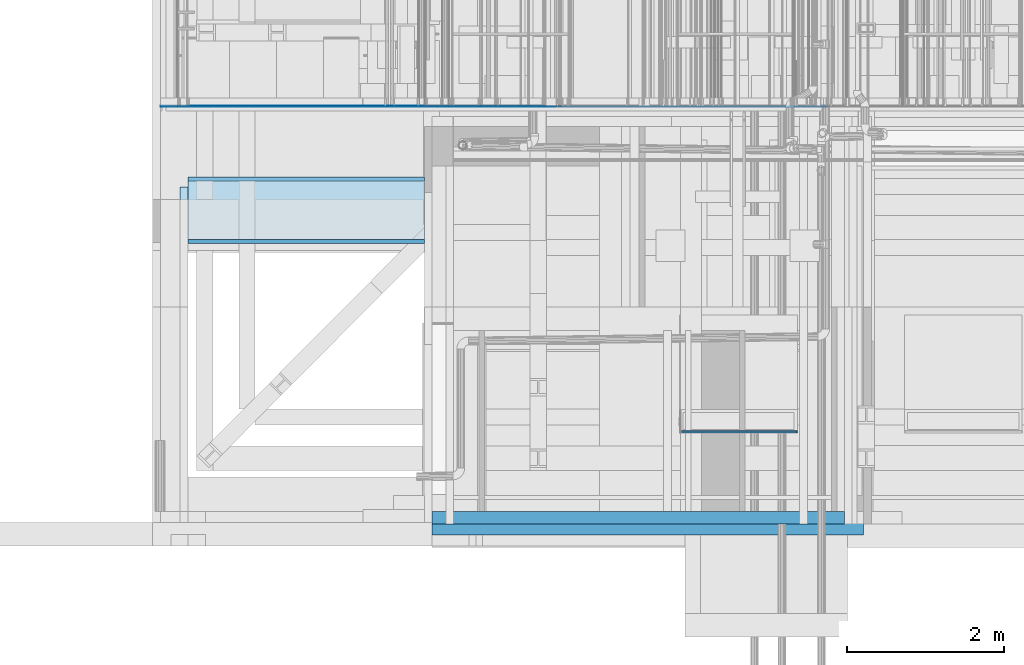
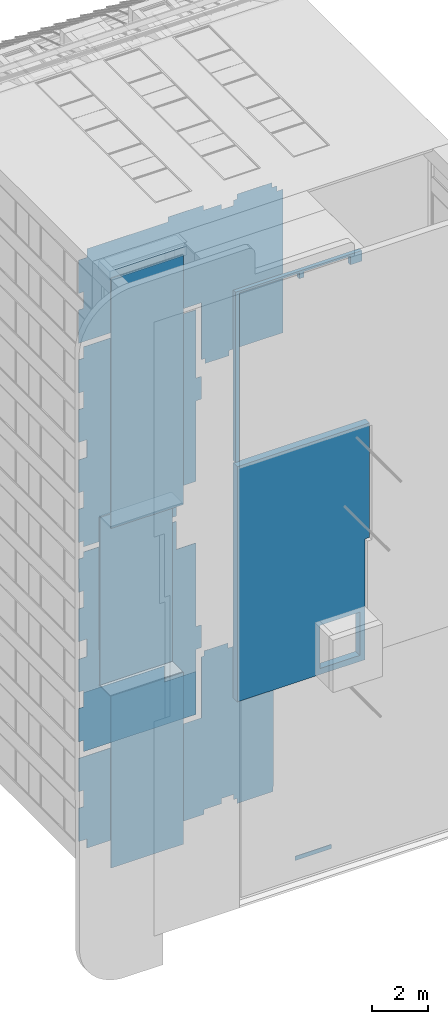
# One storey, part 243 of 583: 18 slabs.
"""IFC2X3 building model written with IfcOpenShell, lengths in metres."""

from ifc_helpers import new_model, entity, si_unit, converted_unit, derived_unit, money_unit, direction, frame, origin_with_axes, place, context, subcontext, project, spatial, faceted_brep, material, type_object, element, save


model = new_model("IFC2X3")

# Units and contexts
model_context = context("Model", 3, precision=1e-05, world=origin_with_axes(), true_north=direction((0.0, 1.0)))
body_context = subcontext(model_context, "Body", "Model", "MODEL_VIEW", scale=1.0)
ifc_project = project(units=[si_unit("LENGTHUNIT", "METRE"), si_unit("AREAUNIT", "SQUARE_METRE"), si_unit("VOLUMEUNIT", "CUBIC_METRE"), si_unit("ABSORBEDDOSEUNIT", "GRAY"), si_unit("AMOUNTOFSUBSTANCEUNIT", "MOLE"), si_unit("DOSEEQUIVALENTUNIT", "SIEVERT"), si_unit("ELECTRICCAPACITANCEUNIT", "FARAD"), si_unit("ELECTRICCHARGEUNIT", "COULOMB"), si_unit("ELECTRICCONDUCTANCEUNIT", "SIEMENS"), si_unit("ELECTRICCURRENTUNIT", "AMPERE"), si_unit("ELECTRICRESISTANCEUNIT", "OHM"), si_unit("ELECTRICVOLTAGEUNIT", "VOLT"), si_unit("ENERGYUNIT", "JOULE"), si_unit("FORCEUNIT", "NEWTON"), si_unit("FREQUENCYUNIT", "HERTZ"), si_unit("ILLUMINANCEUNIT", "LUX"), si_unit("INDUCTANCEUNIT", "HENRY"), si_unit("LUMINOUSFLUXUNIT", "LUMEN"), si_unit("LUMINOUSINTENSITYUNIT", "CANDELA"), si_unit("MAGNETICFLUXDENSITYUNIT", "TESLA"), si_unit("MAGNETICFLUXUNIT", "WEBER"), si_unit("MASSUNIT", "GRAM"), converted_unit("PLANEANGLEUNIT", "degree", entity("IfcReal", 0.0174532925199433), si_unit("PLANEANGLEUNIT", "RADIAN"), dimensions=[0, 0, 0, 0, 0, 0, 0]), si_unit("POWERUNIT", "WATT"), si_unit("PRESSUREUNIT", "PASCAL"), si_unit("RADIOACTIVITYUNIT", "BECQUEREL"), si_unit("SOLIDANGLEUNIT", "STERADIAN"), si_unit("THERMODYNAMICTEMPERATUREUNIT", "KELVIN"), si_unit("TIMEUNIT", "SECOND"), derived_unit("ACCELERATIONUNIT", [(si_unit("LENGTHUNIT", "METRE"), 1), (si_unit("TIMEUNIT", "SECOND"), -2)]), derived_unit("ANGULARVELOCITYUNIT", [(converted_unit("PLANEANGLEUNIT", "degree", entity("IfcReal", 0.0174532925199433), si_unit("PLANEANGLEUNIT", "RADIAN"), dimensions=[0, 0, 0, 0, 0, 0, 0]), 1), (si_unit("TIMEUNIT", "SECOND"), -1)]), derived_unit("CURVATUREUNIT", [(converted_unit("PLANEANGLEUNIT", "degree", entity("IfcReal", 0.0174532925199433), si_unit("PLANEANGLEUNIT", "RADIAN"), dimensions=[0, 0, 0, 0, 0, 0, 0]), 1), (si_unit("LENGTHUNIT", "METRE"), -1)]), derived_unit("DYNAMICVISCOSITYUNIT", [(si_unit("PRESSUREUNIT", "PASCAL"), 1), (si_unit("TIMEUNIT", "SECOND"), 1)]), derived_unit("HEATFLUXDENSITYUNIT", [(si_unit("POWERUNIT", "WATT"), 1), (si_unit("LENGTHUNIT", "METRE"), -2)]), derived_unit("HEATINGVALUEUNIT", [(si_unit("ENERGYUNIT", "JOULE"), 1), (si_unit("MASSUNIT", "GRAM"), -1)]), derived_unit("INTEGERCOUNTRATEUNIT", [(si_unit("TIMEUNIT", "SECOND"), -1)]), derived_unit("IONCONCENTRATIONUNIT", [(si_unit("MASSUNIT", "GRAM"), 1), (si_unit("VOLUMEUNIT", "CUBIC_METRE"), -1)]), derived_unit("ISOTHERMALMOISTURECAPACITYUNIT", [(si_unit("VOLUMEUNIT", "CUBIC_METRE"), 1), (si_unit("MASSUNIT", "GRAM"), -1)]), derived_unit("KINEMATICVISCOSITYUNIT", [(si_unit("AREAUNIT", "SQUARE_METRE"), 1), (si_unit("TIMEUNIT", "SECOND"), -1)]), derived_unit("LINEARFORCEUNIT", [(si_unit("FORCEUNIT", "NEWTON"), 1), (si_unit("LENGTHUNIT", "METRE"), -1)]), derived_unit("LINEARMOMENTUNIT", [(si_unit("FORCEUNIT", "NEWTON"), 1), (si_unit("LENGTHUNIT", "METRE"), -1)]), derived_unit("LINEARSTIFFNESSUNIT", [(si_unit("FORCEUNIT", "NEWTON"), 1), (si_unit("LENGTHUNIT", "METRE"), -1)]), derived_unit("LINEARVELOCITYUNIT", [(si_unit("LENGTHUNIT", "METRE"), 1), (si_unit("TIMEUNIT", "SECOND"), -1)]), derived_unit("LUMINOUSINTENSITYDISTRIBUTIONUNIT", [(si_unit("LUMINOUSINTENSITYUNIT", "CANDELA"), 1), (si_unit("LUMINOUSFLUXUNIT", "LUMEN"), -1)]), derived_unit("MASSDENSITYUNIT", [(si_unit("MASSUNIT", "GRAM"), 1), (si_unit("VOLUMEUNIT", "CUBIC_METRE"), -1)]), derived_unit("MASSFLOWRATEUNIT", [(si_unit("MASSUNIT", "GRAM"), 1), (si_unit("TIMEUNIT", "SECOND"), -1)]), derived_unit("MASSPERLENGTHUNIT", [(si_unit("MASSUNIT", "GRAM"), 1), (si_unit("LENGTHUNIT", "METRE"), -1)]), derived_unit("MODULUSOFELASTICITYUNIT", [(si_unit("FORCEUNIT", "NEWTON"), 1), (si_unit("AREAUNIT", "SQUARE_METRE"), -1)]), derived_unit("MODULUSOFLINEARSUBGRADEREACTIONUNIT", [(si_unit("FORCEUNIT", "NEWTON"), 1), (si_unit("LENGTHUNIT", "METRE"), -2)]), derived_unit("MODULUSOFROTATIONALSUBGRADEREACTIONUNIT", [(si_unit("FORCEUNIT", "NEWTON"), 1), (si_unit("LENGTHUNIT", "METRE"), 1)]), derived_unit("MODULUSOFSUBGRADEREACTIONUNIT", [(si_unit("FORCEUNIT", "NEWTON"), 1), (si_unit("VOLUMEUNIT", "CUBIC_METRE"), -1)]), derived_unit("MOISTUREDIFFUSIVITYUNIT", [(si_unit("VOLUMEUNIT", "CUBIC_METRE"), 1), (si_unit("TIMEUNIT", "SECOND"), -1)]), derived_unit("MOLECULARWEIGHTUNIT", [(si_unit("MASSUNIT", "GRAM"), 1), (si_unit("AMOUNTOFSUBSTANCEUNIT", "MOLE"), -1)]), derived_unit("PLANARFORCEUNIT", [(si_unit("FORCEUNIT", "NEWTON"), 1), (si_unit("LENGTHUNIT", "METRE"), -2)]), derived_unit("ROTATIONALFREQUENCYUNIT", [(si_unit("TIMEUNIT", "SECOND"), -1)]), derived_unit("ROTATIONALMASSUNIT", [(si_unit("MASSUNIT", "GRAM"), 1), (si_unit("LENGTHUNIT", "METRE"), 2)]), derived_unit("ROTATIONALSTIFFNESSUNIT", [(si_unit("FORCEUNIT", "NEWTON"), 1), (si_unit("LENGTHUNIT", "METRE"), 1), (converted_unit("PLANEANGLEUNIT", "degree", entity("IfcReal", 0.0174532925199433), si_unit("PLANEANGLEUNIT", "RADIAN"), dimensions=[0, 0, 0, 0, 0, 0, 0]), -1)]), derived_unit("SECTIONAREAINTEGRALUNIT", [(si_unit("LENGTHUNIT", "METRE"), 5)]), derived_unit("SECTIONMODULUSUNIT", [(si_unit("LENGTHUNIT", "METRE"), 3)]), derived_unit("SHEARMODULUSUNIT", [(si_unit("FORCEUNIT", "NEWTON"), 1), (si_unit("AREAUNIT", "SQUARE_METRE"), -1)]), derived_unit("SOUNDPOWERUNIT", [(si_unit("ENERGYUNIT", "JOULE"), 1), (si_unit("TIMEUNIT", "SECOND"), -1)]), derived_unit("SPECIFICHEATCAPACITYUNIT", [(si_unit("FORCEUNIT", "NEWTON"), 1), (si_unit("MASSUNIT", "GRAM"), -1), (si_unit("THERMODYNAMICTEMPERATUREUNIT", "KELVIN"), -1)]), derived_unit("TEMPERATUREGRADIENTUNIT", [(si_unit("THERMODYNAMICTEMPERATUREUNIT", "KELVIN"), 1), (si_unit("LENGTHUNIT", "METRE"), -1)]), derived_unit("THERMALADMITTANCEUNIT", [(si_unit("POWERUNIT", "WATT"), 1), (si_unit("AREAUNIT", "SQUARE_METRE"), -1), (si_unit("THERMODYNAMICTEMPERATUREUNIT", "KELVIN"), -1)]), derived_unit("THERMALCONDUCTANCEUNIT", [(si_unit("POWERUNIT", "WATT"), 1), (si_unit("LENGTHUNIT", "METRE"), -1), (si_unit("THERMODYNAMICTEMPERATUREUNIT", "KELVIN"), -1)]), derived_unit("THERMALEXPANSIONCOEFFICIENTUNIT", [(si_unit("THERMODYNAMICTEMPERATUREUNIT", "KELVIN"), -1)]), derived_unit("THERMALRESISTANCEUNIT", [(si_unit("AREAUNIT", "SQUARE_METRE"), 1), (si_unit("POWERUNIT", "WATT"), -1)]), derived_unit("THERMALTRANSMITTANCEUNIT", [(si_unit("POWERUNIT", "WATT"), 1), (si_unit("AREAUNIT", "SQUARE_METRE"), -1), (si_unit("THERMODYNAMICTEMPERATUREUNIT", "KELVIN"), -1)]), derived_unit("TORQUEUNIT", [(si_unit("FORCEUNIT", "NEWTON"), 1), (si_unit("LENGTHUNIT", "METRE"), 1)]), derived_unit("VAPORPERMEABILITYUNIT", [(si_unit("MASSUNIT", "GRAM"), 1), (si_unit("TIMEUNIT", "SECOND"), -1)]), derived_unit("VOLUMETRICFLOWRATEUNIT", [(si_unit("VOLUMEUNIT", "CUBIC_METRE"), 1), (si_unit("TIMEUNIT", "SECOND"), -1)]), derived_unit("WARPINGCONSTANTUNIT", [(si_unit("LENGTHUNIT", "METRE"), 6)]), derived_unit("WARPINGMOMENTUNIT", [(si_unit("FORCEUNIT", "NEWTON"), 1), (si_unit("LENGTHUNIT", "METRE"), 2)]), money_unit("GBP")], contexts=[model_context])

# Site, building, storey
site_placement = place(None, origin_with_axes())
site = spatial("IfcSite", under=ifc_project, at=site_placement, Name="Site", CompositionType="ELEMENT")
building_placement = place(site_placement, origin_with_axes())
building = spatial("IfcBuilding", under=site, at=building_placement, Name="Building01", CompositionType="ELEMENT")
storey_placement = place(building_placement, frame((0.0, 0.0, 20.78), z_axis=(0.0, 0.0, 1.0), x_axis=(1.0, 0.0, 0.0)))
storey = spatial("IfcBuildingStorey", under=building, at=storey_placement, Name="RL", CompositionType="ELEMENT", Elevation=20.78)

# Slabs
ifc_material_1 = material(Name="A_BSUK_Slabs")
slab_type = type_object("IfcSlabType", Name="A-FloorsSlabs A_BSUK_Slabs", PredefinedType="FLOOR")
placement = place(storey_placement, frame((0.0, 0.0, -20.78), z_axis=(0.0, 0.0, 1.0), x_axis=(1.0, 0.0, 0.0)))
element("IfcSlab", 1, at=placement, inside=storey, type_object=slab_type, material=ifc_material_1, Name="A-FloorsSlabs A_BSUK_Slabs", ObjectType="CompoundSlabLeaf", context=body_context, shape_type="Brep", body=[
    faceted_brep([(3.558962, -0.16, 19.402776), (3.558962, 0.0, 19.402776), (3.733962, 0.0, 19.402776), (3.733962, -0.16, 19.402776), (3.558962, -0.16, 26.881285), (3.558962, 0.0, 26.881285), (8.809531, -0.16, 26.881285), (8.809531, 0.0, 26.881285), (8.809531, -0.16, 26.414179), (8.809531, 0.0, 26.414179), (8.337758, -0.16, 26.414179), (8.337758, 0.0, 26.414179), (8.337758, -0.16, 26.795161), (8.337758, 0.0, 26.795161), (6.411749, -0.16, 26.795161), (6.411749, 0.0, 26.795161), (6.411749, -0.16, 26.548156), (6.411749, 0.0, 26.548156), (6.212116, -0.16, 26.548156), (6.212116, 0.0, 26.548156), (6.212107, -0.16, 26.795153), (6.212107, 0.0, 26.795153), (3.733574, -0.16, 26.795285), (3.733574, 0.0, 26.795285)], [[[0, 1, 2, 3]], [[4, 5, 1, 0]], [[6, 7, 5, 4]], [[8, 9, 7, 6]], [[10, 11, 9, 8]], [[12, 13, 11, 10]], [[14, 15, 13, 12]], [[16, 17, 15, 14]], [[18, 19, 17, 16]], [[20, 21, 19, 18]], [[22, 23, 21, 20]], [[3, 2, 23, 22]], [[1, 5, 7, 9, 11, 13, 15, 17, 19, 21, 23, 2]], [[3, 22, 20, 18, 16, 14, 12, 10, 8, 6, 4, 0]]]),
])
element("IfcSlab", 2, at=placement, inside=storey, type_object=slab_type, material=ifc_material_1, Name="A-FloorsSlabs A_BSUK_Slabs", ObjectType="CompoundSlabLeaf", context=body_context, shape_type="Brep", body=[
    faceted_brep([(8.87141, 0.0, 8.965099), (3.559165, 0.0, 8.965099), (3.559165, 0.0, 19.302967), (9.053145, 0.0, 19.302967), (9.053145, 0.0, 14.27235), (8.87141, 0.0, 14.27235), (8.64741, 0.0, 9.229999), (8.64741, 0.0, 11.129999), (6.989761, 0.0, 11.129999), (6.989761, 0.0, 9.229999), (8.87141, -0.3, 14.27235), (9.053145, -0.3, 14.27235), (9.053145, -0.3, 19.302967), (3.559165, -0.3, 19.302967), (3.559165, -0.3, 8.965099), (8.87141, -0.3, 8.965099), (8.64741, -0.3, 9.229999), (6.989761, -0.3, 9.229999), (6.989761, -0.3, 11.129999), (8.64741, -0.3, 11.129999)], [[[0, 1, 2, 3, 4, 5], [6, 7, 8, 9]], [[10, 11, 12, 13, 14, 15], [16, 17, 18, 19]], [[15, 0, 5, 10]], [[14, 1, 0, 15]], [[13, 2, 1, 14]], [[12, 3, 2, 13]], [[11, 4, 3, 12]], [[10, 5, 4, 11]], [[16, 19, 7, 6]], [[17, 16, 6, 9]], [[18, 17, 9, 8]], [[19, 18, 8, 7]]]),
])
ifc_material_2 = material(Name="A_BSUK_Timber_Miscellaneous")
element("IfcSlab", 3, at=placement, inside=storey, type_object=slab_type, material=ifc_material_2, Name="A-FloorsSlabs A_BSUK_Slabs", ObjectType="CompoundSlabLeaf", context=body_context, shape_type="Brep", body=[
    faceted_brep([(8.212761, 0.998, 0.100088), (8.212761, 1.023, 0.100088), (8.212761, 1.023, 0.287079), (8.212761, 0.998, 0.287079), (6.712761, 0.998, 0.100088), (6.712761, 1.023, 0.100088), (6.712761, 0.998, 0.287079), (6.712761, 1.023, 0.287079)], [[[0, 1, 2, 3]], [[4, 5, 1, 0]], [[6, 7, 5, 4]], [[3, 2, 7, 6]], [[1, 5, 7, 2]], [[3, 6, 4, 0]]]),
])
ifc_material_3 = material(Name="A_BSUK_ExpandedPolystyreneBoards")
element("IfcSlab", 4, at=placement, inside=storey, type_object=slab_type, material=ifc_material_3, Name="A-FloorsSlabs A_BSUK_Slabs", ObjectType="CompoundSlabLeaf", context=body_context, shape_type="Brep", body=[
    faceted_brep([(0.450128, 4.21, 8.054094), (0.450128, 4.26, 8.054094), (3.459213, 4.26, 8.054094), (3.459213, 4.21, 8.054094), (0.449338, 4.21, 15.424099), (0.449338, 4.26, 15.424099), (3.459213, 4.21, 15.424099), (3.459213, 4.26, 15.424099)], [[[0, 1, 2, 3]], [[4, 5, 1, 0]], [[6, 7, 5, 4]], [[3, 2, 7, 6]], [[1, 5, 7, 2]], [[3, 6, 4, 0]]]),
])
element("IfcSlab", 5, at=placement, inside=storey, type_object=slab_type, material=ifc_material_3, Name="A-FloorsSlabs A_BSUK_Slabs", ObjectType="CompoundSlabLeaf", context=body_context, shape_type="Brep", body=[
    faceted_brep([(3.459213, 3.41, 0.5), (3.459213, 3.46, 0.5), (3.459213, 3.46, 8.054094), (3.459213, 3.41, 8.054094), (0.449667, 3.41, 0.5), (0.449667, 3.46, 0.5), (0.449667, 3.41, 8.054094), (0.449667, 3.46, 8.054094)], [[[0, 1, 2, 3]], [[4, 5, 1, 0]], [[6, 7, 5, 4]], [[3, 2, 7, 6]], [[1, 5, 7, 2]], [[3, 6, 4, 0]]]),
])
element("IfcSlab", 6, at=placement, inside=storey, type_object=slab_type, material=ifc_material_3, Name="A-FloorsSlabs A_BSUK_Slabs", ObjectType="CompoundSlabLeaf", context=body_context, shape_type="Brep", body=[
    faceted_brep([(3.459213, 3.41, 15.424099), (3.459213, 3.46, 15.424099), (3.459332, 3.46, 26.41), (3.459332, 3.41, 26.41), (0.449338, 3.41, 15.424099), (0.449338, 3.46, 15.424099), (0.44956, 3.41, 26.41), (0.44956, 3.46, 26.41)], [[[0, 1, 2, 3]], [[4, 5, 1, 0]], [[6, 7, 5, 4]], [[3, 2, 7, 6]], [[1, 5, 7, 2]], [[3, 6, 4, 0]]]),
])
element("IfcSlab", 7, at=placement, inside=storey, type_object=slab_type, material=ifc_material_3, Name="A-FloorsSlabs A_BSUK_Slabs", ObjectType="CompoundSlabLeaf", context=body_context, shape_type="Brep", body=[
    faceted_brep([(3.459213, 3.46, 8.004094), (3.459213, 4.26, 8.004094), (3.459213, 4.26, 8.054094), (3.459213, 3.46, 8.054094), (0.449338, 3.46, 8.004094), (0.449338, 4.26, 8.004094), (0.449338, 3.46, 8.054094), (0.449338, 4.26, 8.054094)], [[[0, 1, 2, 3]], [[4, 5, 1, 0]], [[6, 7, 5, 4]], [[3, 2, 7, 6]], [[1, 5, 7, 2]], [[3, 6, 4, 0]]]),
])
element("IfcSlab", 8, at=placement, inside=storey, type_object=slab_type, material=ifc_material_1, Name="A-FloorsSlabs A_BSUK_Slabs", ObjectType="CompoundSlabLeaf", context=body_context, shape_type="Brep", body=[
    faceted_brep([(0.348679, 3.325, 26.81), (0.348679, 4.13, 26.81), (0.348679, 4.13, 26.41), (0.348679, 3.325, 26.41), (3.558962, 3.325, 26.81), (3.558962, 4.13, 26.81), (3.558962, 3.325, 26.41), (3.558962, 4.13, 26.41)], [[[0, 1, 2, 3]], [[4, 5, 1, 0]], [[6, 7, 5, 4]], [[3, 2, 7, 6]], [[1, 5, 7, 2]], [[3, 6, 4, 0]]]),
])
element("IfcSlab", 9, at=placement, inside=storey, type_object=slab_type, material=ifc_material_3, Name="A-FloorsSlabs A_BSUK_Slabs", ObjectType="CompoundSlabLeaf", context=body_context, shape_type="Brep", body=[
    faceted_brep([(3.459213, 3.46, 15.424099), (3.459213, 4.26, 15.424099), (3.459213, 4.26, 15.474099), (3.459213, 3.46, 15.474099), (0.449338, 3.46, 15.424099), (0.449338, 4.26, 15.424099), (0.449338, 3.46, 15.474099), (0.449338, 4.26, 15.474099)], [[[0, 1, 2, 3]], [[4, 5, 1, 0]], [[6, 7, 5, 4]], [[3, 2, 7, 6]], [[1, 5, 7, 2]], [[3, 6, 4, 0]]]),
])
element("IfcSlab", 10, at=placement, inside=storey, type_object=slab_type, material=ifc_material_3, Name="A-FloorsSlabs A_BSUK_Slabs", ObjectType="CompoundSlabLeaf", context=body_context, shape_type="Brep", body=[
    faceted_brep([(6.357147, 5.15, 20.122661), (6.357147, 5.153, 20.122661), (8.595, 5.153, 20.122661), (8.595, 5.15, 20.122661), (6.357147, 5.15, 19.897661), (6.357147, 5.153, 19.897661), (5.357147, 5.15, 19.897661), (5.357147, 5.153, 19.897661), (5.357147, 5.15, 20.122661), (5.357147, 5.153, 20.122661), (5.205, 5.15, 20.122661), (5.205, 5.153, 20.122661), (5.205, 5.15, 22.625), (5.205, 5.153, 22.625), (0.1, 5.15, 22.625), (0.1, 5.153, 22.625), (0.1, 5.15, 24.095), (0.1, 5.153, 24.095), (0.318, 5.15, 24.095), (0.318, 5.153, 24.095), (0.318, 5.15, 24.815), (0.318, 5.153, 24.815), (0.1, 5.15, 24.815), (0.1, 5.153, 24.815), (0.1, 5.15, 26.285), (0.1, 5.153, 26.285), (0.448, 5.15, 26.285), (0.448, 5.153, 26.285), (0.448, 5.15, 26.662), (0.448, 5.153, 26.662), (3.82218, 5.15, 26.662), (3.82218, 5.153, 26.662), (3.82218, 5.15, 26.88), (3.82218, 5.153, 26.88), (5.29218, 5.15, 26.88), (5.29218, 5.153, 26.88), (5.29218, 5.15, 26.662), (5.29218, 5.153, 26.662), (6.052, 5.15, 26.662), (6.052, 5.153, 26.662), (6.052, 5.15, 26.432), (6.052, 5.153, 26.432), (6.548, 5.15, 26.432), (6.548, 5.153, 26.432), (6.548, 5.15, 26.662), (6.548, 5.153, 26.662), (6.682326, 5.15, 26.662), (6.682326, 5.153, 26.662), (6.682326, 5.15, 26.88), (6.682326, 5.153, 26.88), (8.152326, 5.15, 26.88), (8.152326, 5.153, 26.88), (8.152326, 5.15, 26.662), (8.152326, 5.153, 26.662), (8.352, 5.15, 26.662), (8.352, 5.153, 26.662), (8.352, 5.15, 26.432), (8.352, 5.153, 26.432), (8.595, 5.15, 26.432), (8.595, 5.153, 26.432)], [[[0, 1, 2, 3]], [[4, 5, 1, 0]], [[6, 7, 5, 4]], [[8, 9, 7, 6]], [[10, 11, 9, 8]], [[12, 13, 11, 10]], [[14, 15, 13, 12]], [[16, 17, 15, 14]], [[18, 19, 17, 16]], [[20, 21, 19, 18]], [[22, 23, 21, 20]], [[24, 25, 23, 22]], [[26, 27, 25, 24]], [[28, 29, 27, 26]], [[30, 31, 29, 28]], [[32, 33, 31, 30]], [[34, 35, 33, 32]], [[36, 37, 35, 34]], [[38, 39, 37, 36]], [[40, 41, 39, 38]], [[42, 43, 41, 40]], [[44, 45, 43, 42]], [[46, 47, 45, 44]], [[48, 49, 47, 46]], [[50, 51, 49, 48]], [[52, 53, 51, 50]], [[54, 55, 53, 52]], [[56, 57, 55, 54]], [[58, 59, 57, 56]], [[3, 2, 59, 58]], [[1, 5, 7, 9, 11, 13, 15, 17, 19, 21, 23, 25, 27, 29, 31, 33, 35, 37, 39, 41, 43, 45, 47, 49, 51, 53, 55, 57, 59, 2]], [[3, 58, 56, 54, 52, 50, 48, 46, 44, 42, 40, 38, 36, 34, 32, 30, 28, 26, 24, 22, 20, 18, 16, 14, 12, 10, 8, 6, 4, 0]]]),
])
element("IfcSlab", 11, at=placement, inside=storey, type_object=slab_type, material=ifc_material_3, Name="A-FloorsSlabs A_BSUK_Slabs", ObjectType="CompoundSlabLeaf", context=body_context, shape_type="Brep", body=[
    faceted_brep([(4.164428, 5.15, 14.85), (4.164428, 5.153, 14.85), (4.98, 5.153, 14.85), (4.98, 5.15, 14.85), (4.164428, 5.15, 13.6125), (4.164428, 5.153, 13.6125), (0.318, 5.15, 13.6125), (0.318, 5.153, 13.6125), (0.318, 5.15, 13.865), (0.318, 5.153, 13.865), (0.1, 5.15, 13.865), (0.1, 5.153, 13.865), (0.1, 5.15, 15.335), (0.1, 5.153, 15.335), (0.318, 5.15, 15.335), (0.318, 5.153, 15.335), (0.318, 5.15, 16.055), (0.318, 5.153, 16.055), (0.1, 5.15, 16.055), (0.1, 5.153, 16.055), (0.1, 5.15, 17.502), (0.1, 5.153, 17.502), (0.448, 5.15, 17.502), (0.448, 5.153, 17.502), (0.448, 5.15, 18.268), (0.448, 5.153, 18.268), (0.1, 5.15, 18.268), (0.1, 5.153, 18.268), (0.1, 5.15, 19.715), (0.1, 5.153, 19.715), (0.318, 5.15, 19.715), (0.318, 5.153, 19.715), (0.318, 5.15, 20.435), (0.318, 5.153, 20.435), (0.1, 5.15, 20.435), (0.1, 5.153, 20.435), (0.1, 5.15, 21.905), (0.1, 5.153, 21.905), (0.318, 5.15, 21.905), (0.318, 5.153, 21.905), (0.318, 5.15, 22.4), (0.318, 5.153, 22.4), (4.98, 5.15, 22.4), (4.98, 5.153, 22.4), (4.98, 5.15, 19.392), (4.98, 5.153, 19.392), (5.205, 5.15, 19.392), (5.205, 5.153, 19.392), (5.205, 5.15, 18.392), (5.205, 5.153, 18.392), (4.98, 5.15, 18.392), (4.98, 5.153, 18.392), (4.98, 5.15, 18.0), (4.98, 5.153, 18.0)], [[[0, 1, 2, 3]], [[4, 5, 1, 0]], [[6, 7, 5, 4]], [[8, 9, 7, 6]], [[10, 11, 9, 8]], [[12, 13, 11, 10]], [[14, 15, 13, 12]], [[16, 17, 15, 14]], [[18, 19, 17, 16]], [[20, 21, 19, 18]], [[22, 23, 21, 20]], [[24, 25, 23, 22]], [[26, 27, 25, 24]], [[28, 29, 27, 26]], [[30, 31, 29, 28]], [[32, 33, 31, 30]], [[34, 35, 33, 32]], [[36, 37, 35, 34]], [[38, 39, 37, 36]], [[40, 41, 39, 38]], [[42, 43, 41, 40]], [[44, 45, 43, 42]], [[46, 47, 45, 44]], [[48, 49, 47, 46]], [[50, 51, 49, 48]], [[52, 53, 51, 50]], [[3, 2, 53, 52]], [[1, 5, 7, 9, 11, 13, 15, 17, 19, 21, 23, 25, 27, 29, 31, 33, 35, 37, 39, 41, 43, 45, 47, 49, 51, 53, 2]], [[3, 52, 50, 48, 46, 44, 42, 40, 38, 36, 34, 32, 30, 28, 26, 24, 22, 20, 18, 16, 14, 12, 10, 8, 6, 4, 0]]]),
])
element("IfcSlab", 12, at=placement, inside=storey, type_object=slab_type, material=ifc_material_3, Name="A-FloorsSlabs A_BSUK_Slabs", ObjectType="CompoundSlabLeaf", context=body_context, shape_type="Brep", body=[
    faceted_brep([(4.98, 5.15, 12.15), (4.98, 5.153, 12.15), (4.164428, 5.153, 12.15), (4.164428, 5.15, 12.15), (4.98, 5.15, 9.0), (4.98, 5.153, 9.0), (4.98, 5.15, 8.4725), (4.98, 5.153, 8.4725), (5.205, 5.15, 8.4725), (5.205, 5.153, 8.4725), (5.205, 5.15, 7.4725), (5.205, 5.153, 7.4725), (4.98, 5.15, 7.4725), (4.98, 5.153, 7.4725), (4.98, 5.15, 4.61), (4.98, 5.153, 4.61), (0.318, 5.15, 4.61), (0.318, 5.153, 4.61), (0.318, 5.15, 5.105), (0.318, 5.153, 5.105), (0.1, 5.15, 5.105), (0.1, 5.153, 5.105), (0.1, 5.15, 6.575), (0.1, 5.153, 6.575), (0.318, 5.15, 6.575), (0.318, 5.153, 6.575), (0.318, 5.15, 7.295), (0.318, 5.153, 7.295), (0.1, 5.15, 7.295), (0.1, 5.153, 7.295), (0.1, 5.15, 8.742), (0.1, 5.153, 8.742), (0.448, 5.15, 8.742), (0.448, 5.153, 8.742), (0.448, 5.15, 9.508), (0.448, 5.153, 9.508), (0.1, 5.15, 9.508), (0.1, 5.153, 9.508), (0.1, 5.15, 10.955), (0.1, 5.153, 10.955), (0.318, 5.15, 10.955), (0.318, 5.153, 10.955), (0.318, 5.15, 11.675), (0.318, 5.153, 11.675), (0.1, 5.15, 11.675), (0.1, 5.153, 11.675), (0.1, 5.15, 13.145), (0.1, 5.153, 13.145), (0.318, 5.15, 13.145), (0.318, 5.153, 13.145), (0.318, 5.15, 13.3875), (0.318, 5.153, 13.3875), (4.164428, 5.15, 13.3875), (4.164428, 5.153, 13.3875)], [[[0, 1, 2, 3]], [[4, 5, 1, 0]], [[6, 7, 5, 4]], [[8, 9, 7, 6]], [[10, 11, 9, 8]], [[12, 13, 11, 10]], [[14, 15, 13, 12]], [[16, 17, 15, 14]], [[18, 19, 17, 16]], [[20, 21, 19, 18]], [[22, 23, 21, 20]], [[24, 25, 23, 22]], [[26, 27, 25, 24]], [[28, 29, 27, 26]], [[30, 31, 29, 28]], [[32, 33, 31, 30]], [[34, 35, 33, 32]], [[36, 37, 35, 34]], [[38, 39, 37, 36]], [[40, 41, 39, 38]], [[42, 43, 41, 40]], [[44, 45, 43, 42]], [[46, 47, 45, 44]], [[48, 49, 47, 46]], [[50, 51, 49, 48]], [[52, 53, 51, 50]], [[3, 2, 53, 52]], [[1, 5, 7, 9, 11, 13, 15, 17, 19, 21, 23, 25, 27, 29, 31, 33, 35, 37, 39, 41, 43, 45, 47, 49, 51, 53, 2]], [[3, 52, 50, 48, 46, 44, 42, 40, 38, 36, 34, 32, 30, 28, 26, 24, 22, 20, 18, 16, 14, 12, 10, 8, 6, 4, 0]]]),
])
element("IfcSlab", 13, at=placement, inside=storey, type_object=slab_type, material=ifc_material_3, Name="A-FloorsSlabs A_BSUK_Slabs", ObjectType="CompoundSlabLeaf", context=body_context, shape_type="Brep", body=[
    faceted_brep([(8.21067, 5.15, 0.318), (8.21067, 5.153, 0.318), (8.21067, 5.153, 7.064669), (8.21067, 5.15, 7.064669), (8.185, 5.15, 0.318), (8.185, 5.153, 0.318), (8.185, 5.15, 0.1), (8.185, 5.153, 0.1), (6.69218, 5.15, 0.1), (6.69218, 5.153, 0.1), (6.69218, 5.15, 0.318), (6.69218, 5.153, 0.318), (6.548, 5.15, 0.318), (6.548, 5.153, 0.318), (6.548, 5.15, 0.548), (6.548, 5.153, 0.548), (6.052, 5.15, 0.548), (6.052, 5.153, 0.548), (6.052, 5.15, 0.318), (6.052, 5.153, 0.318), (5.315, 5.15, 0.318), (5.315, 5.153, 0.318), (5.315, 5.15, 0.1), (5.315, 5.153, 0.1), (3.82218, 5.15, 0.1), (3.82218, 5.153, 0.1), (3.82218, 5.15, 0.318), (3.82218, 5.153, 0.318), (0.448, 5.15, 0.318), (0.448, 5.153, 0.318), (0.448, 5.15, 0.725), (0.448, 5.153, 0.725), (0.1, 5.15, 0.725), (0.1, 5.153, 0.725), (0.1, 5.15, 2.195), (0.1, 5.153, 2.195), (0.318, 5.15, 2.195), (0.318, 5.153, 2.195), (0.318, 5.15, 2.915), (0.318, 5.153, 2.915), (0.1, 5.15, 2.915), (0.1, 5.153, 2.915), (0.1, 5.15, 4.385), (0.1, 5.153, 4.385), (0.318, 5.15, 4.385), (0.318, 5.153, 4.385), (5.205, 5.15, 4.385), (5.205, 5.153, 4.385), (5.205, 5.15, 7.064669), (5.205, 5.153, 7.064669), (5.316475, 5.15, 7.064669), (5.316475, 5.153, 7.064669), (5.316475, 5.15, 7.289669), (5.316475, 5.153, 7.289669), (6.316475, 5.15, 7.289669), (6.316475, 5.153, 7.289669), (6.316475, 5.15, 7.064669), (6.316475, 5.153, 7.064669)], [[[0, 1, 2, 3]], [[4, 5, 1, 0]], [[6, 7, 5, 4]], [[8, 9, 7, 6]], [[10, 11, 9, 8]], [[12, 13, 11, 10]], [[14, 15, 13, 12]], [[16, 17, 15, 14]], [[18, 19, 17, 16]], [[20, 21, 19, 18]], [[22, 23, 21, 20]], [[24, 25, 23, 22]], [[26, 27, 25, 24]], [[28, 29, 27, 26]], [[30, 31, 29, 28]], [[32, 33, 31, 30]], [[34, 35, 33, 32]], [[36, 37, 35, 34]], [[38, 39, 37, 36]], [[40, 41, 39, 38]], [[42, 43, 41, 40]], [[44, 45, 43, 42]], [[46, 47, 45, 44]], [[48, 49, 47, 46]], [[50, 51, 49, 48]], [[52, 53, 51, 50]], [[54, 55, 53, 52]], [[56, 57, 55, 54]], [[3, 2, 57, 56]], [[1, 5, 7, 9, 11, 13, 15, 17, 19, 21, 23, 25, 27, 29, 31, 33, 35, 37, 39, 41, 43, 45, 47, 49, 51, 53, 55, 57, 2]], [[3, 56, 54, 52, 50, 48, 46, 44, 42, 40, 38, 36, 34, 32, 30, 28, 26, 24, 22, 20, 18, 16, 14, 12, 10, 8, 6, 4, 0]]]),
])
ifc_material_4 = material(Name="A_BSUK_Parquet_Floor")
element("IfcSlab", 14, at=placement, inside=storey, type_object=slab_type, material=ifc_material_4, Name="A-FloorsSlabs A_BSUK_Slabs", ObjectType="CompoundSlabLeaf", context=body_context, shape_type="Brep", body=[
    faceted_brep([(4.98, 5.153, 18.392), (4.98, 5.165, 18.392), (5.205, 5.165, 18.392), (5.205, 5.153, 18.392), (4.98, 5.153, 17.9025), (4.98, 5.165, 17.9025), (4.363781, 5.153, 17.9025), (4.363781, 5.165, 17.9025), (4.363781, 5.153, 17.8075), (4.363781, 5.165, 17.8075), (3.613781, 5.153, 17.8075), (3.613781, 5.165, 17.8075), (3.613781, 5.153, 17.9025), (3.613781, 5.165, 17.9025), (3.385, 5.153, 17.9025), (3.385, 5.165, 17.9025), (3.385, 5.153, 15.3125), (3.385, 5.165, 15.3125), (4.98, 5.153, 15.3125), (4.98, 5.165, 15.3125), (4.98, 5.153, 14.85), (4.98, 5.165, 14.85), (4.164428, 5.153, 14.85), (4.164428, 5.165, 14.85), (4.164428, 5.153, 13.6125), (4.164428, 5.165, 13.6125), (0.318, 5.153, 13.6125), (0.318, 5.165, 13.6125), (0.318, 5.153, 13.865), (0.318, 5.165, 13.865), (0.1, 5.153, 13.865), (0.1, 5.165, 13.865), (0.1, 5.153, 15.335), (0.1, 5.165, 15.335), (0.318, 5.153, 15.335), (0.318, 5.165, 15.335), (0.318, 5.153, 16.055), (0.318, 5.165, 16.055), (0.1, 5.153, 16.055), (0.1, 5.165, 16.055), (0.1, 5.153, 17.502), (0.1, 5.165, 17.502), (0.448, 5.153, 17.502), (0.448, 5.165, 17.502), (0.448, 5.153, 18.268), (0.448, 5.165, 18.268), (0.1, 5.153, 18.268), (0.1, 5.165, 18.268), (0.1, 5.153, 19.715), (0.1, 5.165, 19.715), (2.716, 5.153, 19.715), (2.716, 5.165, 19.715), (2.716, 5.153, 19.81), (2.716, 5.165, 19.81), (3.616, 5.153, 19.81), (3.616, 5.165, 19.81), (3.616, 5.153, 19.715), (3.616, 5.165, 19.715), (3.78, 5.153, 19.715), (3.78, 5.165, 19.715), (3.78, 5.153, 20.415), (3.78, 5.165, 20.415), (4.98, 5.153, 20.415), (4.98, 5.165, 20.415), (4.98, 5.153, 19.392), (4.98, 5.165, 19.392), (5.205, 5.153, 19.392), (5.205, 5.165, 19.392)], [[[0, 1, 2, 3]], [[4, 5, 1, 0]], [[6, 7, 5, 4]], [[8, 9, 7, 6]], [[10, 11, 9, 8]], [[12, 13, 11, 10]], [[14, 15, 13, 12]], [[16, 17, 15, 14]], [[18, 19, 17, 16]], [[20, 21, 19, 18]], [[22, 23, 21, 20]], [[24, 25, 23, 22]], [[26, 27, 25, 24]], [[28, 29, 27, 26]], [[30, 31, 29, 28]], [[32, 33, 31, 30]], [[34, 35, 33, 32]], [[36, 37, 35, 34]], [[38, 39, 37, 36]], [[40, 41, 39, 38]], [[42, 43, 41, 40]], [[44, 45, 43, 42]], [[46, 47, 45, 44]], [[48, 49, 47, 46]], [[50, 51, 49, 48]], [[52, 53, 51, 50]], [[54, 55, 53, 52]], [[56, 57, 55, 54]], [[58, 59, 57, 56]], [[60, 61, 59, 58]], [[62, 63, 61, 60]], [[64, 65, 63, 62]], [[66, 67, 65, 64]], [[3, 2, 67, 66]], [[1, 5, 7, 9, 11, 13, 15, 17, 19, 21, 23, 25, 27, 29, 31, 33, 35, 37, 39, 41, 43, 45, 47, 49, 51, 53, 55, 57, 59, 61, 63, 65, 67, 2]], [[3, 66, 64, 62, 60, 58, 56, 54, 52, 50, 48, 46, 44, 42, 40, 38, 36, 34, 32, 30, 28, 26, 24, 22, 20, 18, 16, 14, 12, 10, 8, 6, 4, 0]]]),
])
ifc_material_5 = material(Name="A_BSUK_Carpet-Pile")
element("IfcSlab", 15, at=placement, inside=storey, type_object=slab_type, material=ifc_material_5, Name="A-FloorsSlabs A_BSUK_Slabs", ObjectType="CompoundSlabLeaf", context=body_context, shape_type="Brep", body=[
    faceted_brep([(4.98, 5.153, 20.51), (4.98, 5.165, 20.51), (4.98, 5.165, 22.4), (4.98, 5.153, 22.4), (3.685, 5.153, 20.51), (3.685, 5.165, 20.51), (3.685, 5.153, 19.81), (3.685, 5.165, 19.81), (0.318, 5.153, 19.81), (0.318, 5.165, 19.81), (0.318, 5.153, 20.435), (0.318, 5.165, 20.435), (0.1, 5.153, 20.435), (0.1, 5.165, 20.435), (0.1, 5.153, 21.905), (0.1, 5.165, 21.905), (0.318, 5.153, 21.905), (0.318, 5.165, 21.905), (0.318, 5.153, 22.4), (0.318, 5.165, 22.4)], [[[0, 1, 2, 3]], [[4, 5, 1, 0]], [[6, 7, 5, 4]], [[8, 9, 7, 6]], [[10, 11, 9, 8]], [[12, 13, 11, 10]], [[14, 15, 13, 12]], [[16, 17, 15, 14]], [[18, 19, 17, 16]], [[3, 2, 19, 18]], [[1, 5, 7, 9, 11, 13, 15, 17, 19, 2]], [[3, 18, 16, 14, 12, 10, 8, 6, 4, 0]]]),
])
element("IfcSlab", 16, at=placement, inside=storey, type_object=slab_type, material=ifc_material_4, Name="A-FloorsSlabs A_BSUK_Slabs", ObjectType="CompoundSlabLeaf", context=body_context, shape_type="Brep", body=[
    faceted_brep([(5.205, 5.153, 8.4725), (5.205, 5.165, 8.4725), (4.98, 5.165, 8.4725), (4.98, 5.153, 8.4725), (5.205, 5.153, 7.4725), (5.205, 5.165, 7.4725), (4.98, 5.153, 7.4725), (4.98, 5.165, 7.4725), (4.98, 5.153, 6.595), (4.98, 5.165, 6.595), (3.78, 5.153, 6.595), (3.78, 5.165, 6.595), (3.78, 5.153, 7.295), (3.78, 5.165, 7.295), (3.616, 5.153, 7.295), (3.616, 5.165, 7.295), (3.616, 5.153, 7.2), (3.616, 5.165, 7.2), (2.716, 5.153, 7.2), (2.716, 5.165, 7.2), (2.716, 5.153, 7.295), (2.716, 5.165, 7.295), (0.1, 5.153, 7.295), (0.1, 5.165, 7.295), (0.1, 5.153, 8.742), (0.1, 5.165, 8.742), (0.448, 5.153, 8.742), (0.448, 5.165, 8.742), (0.448, 5.153, 9.508), (0.448, 5.165, 9.508), (0.1, 5.153, 9.508), (0.1, 5.165, 9.508), (0.1, 5.153, 10.955), (0.1, 5.165, 10.955), (0.318, 5.153, 10.955), (0.318, 5.165, 10.955), (0.318, 5.153, 11.675), (0.318, 5.165, 11.675), (0.1, 5.153, 11.675), (0.1, 5.165, 11.675), (0.1, 5.153, 13.145), (0.1, 5.165, 13.145), (0.318, 5.153, 13.145), (0.318, 5.165, 13.145), (0.318, 5.153, 13.3875), (0.318, 5.165, 13.3875), (4.164428, 5.153, 13.3875), (4.164428, 5.165, 13.3875), (4.164428, 5.153, 12.15), (4.164428, 5.165, 12.15), (4.98, 5.153, 12.15), (4.98, 5.165, 12.15), (4.98, 5.153, 11.687536), (4.98, 5.165, 11.687536), (3.385, 5.153, 11.687536), (3.385, 5.165, 11.687536), (3.385, 5.153, 9.097536), (3.385, 5.165, 9.097536), (3.613781, 5.153, 9.097536), (3.613781, 5.165, 9.097536), (3.613781, 5.153, 9.192536), (3.613781, 5.165, 9.192536), (4.363781, 5.153, 9.192536), (4.363781, 5.165, 9.192536), (4.363781, 5.153, 9.097536), (4.363781, 5.165, 9.097536), (4.98, 5.153, 9.097536), (4.98, 5.165, 9.097536)], [[[0, 1, 2, 3]], [[4, 5, 1, 0]], [[6, 7, 5, 4]], [[8, 9, 7, 6]], [[10, 11, 9, 8]], [[12, 13, 11, 10]], [[14, 15, 13, 12]], [[16, 17, 15, 14]], [[18, 19, 17, 16]], [[20, 21, 19, 18]], [[22, 23, 21, 20]], [[24, 25, 23, 22]], [[26, 27, 25, 24]], [[28, 29, 27, 26]], [[30, 31, 29, 28]], [[32, 33, 31, 30]], [[34, 35, 33, 32]], [[36, 37, 35, 34]], [[38, 39, 37, 36]], [[40, 41, 39, 38]], [[42, 43, 41, 40]], [[44, 45, 43, 42]], [[46, 47, 45, 44]], [[48, 49, 47, 46]], [[50, 51, 49, 48]], [[52, 53, 51, 50]], [[54, 55, 53, 52]], [[56, 57, 55, 54]], [[58, 59, 57, 56]], [[60, 61, 59, 58]], [[62, 63, 61, 60]], [[64, 65, 63, 62]], [[66, 67, 65, 64]], [[3, 2, 67, 66]], [[1, 5, 7, 9, 11, 13, 15, 17, 19, 21, 23, 25, 27, 29, 31, 33, 35, 37, 39, 41, 43, 45, 47, 49, 51, 53, 55, 57, 59, 61, 63, 65, 67, 2]], [[3, 66, 64, 62, 60, 58, 56, 54, 52, 50, 48, 46, 44, 42, 40, 38, 36, 34, 32, 30, 28, 26, 24, 22, 20, 18, 16, 14, 12, 10, 8, 6, 4, 0]]]),
])
element("IfcSlab", 17, at=placement, inside=storey, type_object=slab_type, material=ifc_material_5, Name="A-FloorsSlabs A_BSUK_Slabs", ObjectType="CompoundSlabLeaf", context=body_context, shape_type="Brep", body=[
    faceted_brep([(4.98, 5.153, 4.61), (4.98, 5.165, 4.61), (4.98, 5.165, 6.5), (4.98, 5.153, 6.5), (0.318, 5.153, 4.61), (0.318, 5.165, 4.61), (0.318, 5.153, 5.105), (0.318, 5.165, 5.105), (0.1, 5.153, 5.105), (0.1, 5.165, 5.105), (0.1, 5.153, 6.575), (0.1, 5.165, 6.575), (0.318, 5.153, 6.575), (0.318, 5.165, 6.575), (0.318, 5.153, 7.2), (0.318, 5.165, 7.2), (3.685, 5.153, 7.2), (3.685, 5.165, 7.2), (3.685, 5.153, 6.5), (3.685, 5.165, 6.5)], [[[0, 1, 2, 3]], [[4, 5, 1, 0]], [[6, 7, 5, 4]], [[8, 9, 7, 6]], [[10, 11, 9, 8]], [[12, 13, 11, 10]], [[14, 15, 13, 12]], [[16, 17, 15, 14]], [[18, 19, 17, 16]], [[3, 2, 19, 18]], [[1, 5, 7, 9, 11, 13, 15, 17, 19, 2]], [[3, 18, 16, 14, 12, 10, 8, 6, 4, 0]]]),
])
element("IfcSlab", 18, at=placement, inside=storey, type_object=slab_type, material=ifc_material_5, Name="A-FloorsSlabs A_BSUK_Slabs", ObjectType="CompoundSlabLeaf", context=body_context, shape_type="Brep", body=[
    faceted_brep([(0.448, 5.153, 0.318), (0.448, 5.165, 0.318), (2.970286, 5.165, 0.318), (2.970286, 5.153, 0.318), (0.448, 5.153, 0.725), (0.448, 5.165, 0.725), (0.1, 5.153, 0.725), (0.1, 5.165, 0.725), (0.1, 5.153, 2.195), (0.1, 5.165, 2.195), (0.318, 5.153, 2.195), (0.318, 5.165, 2.195), (0.318, 5.153, 2.915), (0.318, 5.165, 2.915), (0.1, 5.153, 2.915), (0.1, 5.165, 2.915), (0.1, 5.153, 4.385), (0.1, 5.165, 4.385), (2.970286, 5.153, 4.385), (2.970286, 5.165, 4.385)], [[[0, 1, 2, 3]], [[4, 5, 1, 0]], [[6, 7, 5, 4]], [[8, 9, 7, 6]], [[10, 11, 9, 8]], [[12, 13, 11, 10]], [[14, 15, 13, 12]], [[16, 17, 15, 14]], [[18, 19, 17, 16]], [[3, 2, 19, 18]], [[1, 5, 7, 9, 11, 13, 15, 17, 19, 2]], [[3, 18, 16, 14, 12, 10, 8, 6, 4, 0]]]),
])

save(model, "model.ifc")
